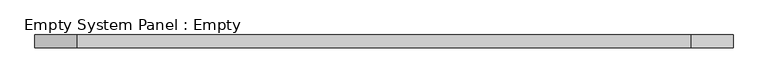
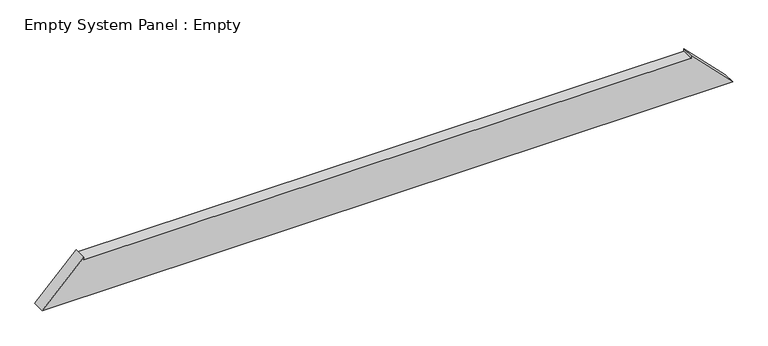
"""IFC4 building model written with IfcOpenShell, lengths in millimetres: plate geometry, Empty System Panel : Empty."""

from ifc_helpers import new_model, si_unit, frame, origin, place, context, project, spatial, polyline, outline, extrude, source, transform, mapped, element, save


def empty_system_panel_empty_4847f3a6(model_context):
    return source(origin(), model_context, "Body", "SweptSolid", [
        extrude(outline(polyline([(0.0, -2718.3530536), (0.0, 2718.3530536), (330.0, 2392.0040571), (310.0, 2392.0040571), (310.0, -2392.0040571), (330.0, -2392.0040571), (0.0, -2718.3530536)])), frame((0.0, -50.0, 0.0), z_axis=(0.0, 1.0, 0.0), x_axis=(0.0, 0.0, 1.0)), (0.0, 0.0, 1.0), 100.0),
    ])


if __name__ == "__main__":
    model = new_model("IFC4")
    model_context = context("Model", 3, world=origin())
    ifc_project = project(units=[si_unit("LENGTHUNIT", "METRE", prefix="MILLI")], contexts=[model_context])
    site = spatial("IfcSite", under=ifc_project)
    building = spatial("IfcBuilding", under=site)
    placement = place(None, origin())
    empty_system_panel_empty_shape = empty_system_panel_empty_4847f3a6(model_context)
    element("IfcPlate", 1, ObjectType="Empty System Panel : Empty", at=placement, inside=building, context=model_context, shape_type="MappedRepresentation", body=[
        mapped(empty_system_panel_empty_shape, transform((0.0, 0.0, 0.0), x_axis=(1.0, 0.0, 0.0), y_axis=(0.0, 1.0, 0.0), z_axis=(0.0, 0.0, 1.0))),
    ])
    save(model, "model.ifc")
